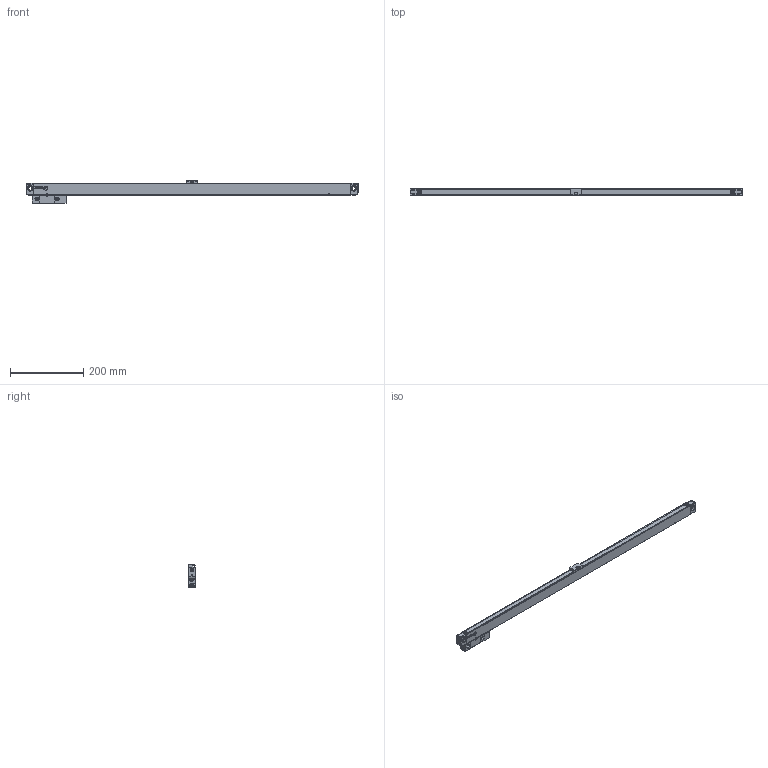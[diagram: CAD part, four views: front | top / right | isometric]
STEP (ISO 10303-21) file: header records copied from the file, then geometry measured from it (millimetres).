
FILE_DESCRIPTION(('Creo Elements/Direct Modeling STEP Export'),'2;1');
FILE_NAME('Regla_S2-770.stp','2018-11-06T17:59:18',(''),(''),'Creo Elements/Direct Modeling STEP processor for AP214 (Solid Model)','Creo Elements/Direct Modeling 19.0G 27-Nov-2017 (C) Parametric Technology GmbH','');
FILE_SCHEMA(('AUTOMOTIVE_DESIGN { 1 0 10303 214 1 1 1 1 }'));
Length unit declared in the file: millimetre
Products named in the file (4): REGLA_S-770; SOPORTE_INTERMEDIO_S; CABEZA_RANURADA_REGLA_S; REGLA_S2-770
Assembly tree (3 placements, depth 2):
  REGLA_S2-770
    CABEZA_RANURADA_REGLA_S
    SOPORTE_INTERMEDIO_S
    REGLA_S-770
Bounding box: 908 x 18.3 x 61.8 mm (x, y, z)
Volume: 504766.1 mm3; surface area: 136425.6 mm2
Topology: 3 solids, 8 shells, 814 faces, 2120 edges, 1372 vertices
Faces by surface type: plane 372, cylinder 259, cone 132, bspline 38, torus 6, sphere 4, extrusion 3
Entity records: 31462 total; most frequent: CARTESIAN_POINT 7184, ORIENTED_EDGE 4212, DIRECTION 3599, EDGE_CURVE 2106, VERTEX_POINT 1372, AXIS2_PLACEMENT_3D 1202, VECTOR 1195, LINE 1192
